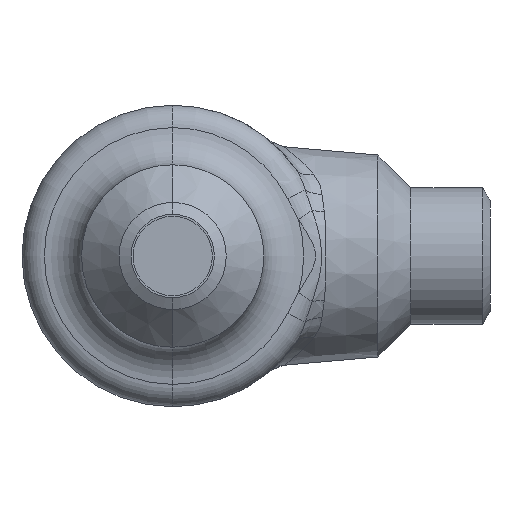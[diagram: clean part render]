
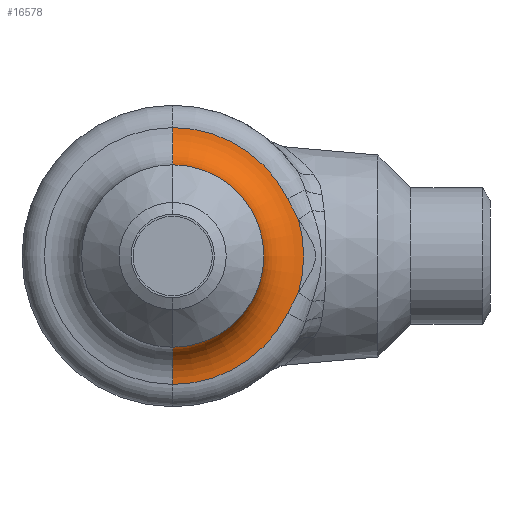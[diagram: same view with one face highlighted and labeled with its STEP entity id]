
A CAD part, front view. The second image highlights one B-rep face of the part: STEP entity #16578.
In plain terms, the highlighted toroidal (fillet/blend) face has major radius 16.5 mm and minor radius 5 mm.
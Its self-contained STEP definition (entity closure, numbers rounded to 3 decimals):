
#3 = ORIENTED_EDGE ( 'NONE', *, *, #1928, .T. ) ;
#16578 = ADVANCED_FACE ( 'NONE', ( #14587 ), #14588, .F. ) ;
#376 = EDGE_CURVE ( 'NONE', #11845, #1309, #16344, .T. ) ;
#17191 = ORIENTED_EDGE ( 'NONE', *, *, #9369, .F. ) ;
#1309 = VERTEX_POINT ( 'NONE', #18938 ) ;
#1530 = EDGE_CURVE ( 'NONE', #19359, #1744, #5591, .T. ) ;
#1744 = VERTEX_POINT ( 'NONE', #5717 ) ;
#1928 = EDGE_CURVE ( 'NONE', #1744, #11845, #5775, .T. ) ;
#2129 = ORIENTED_EDGE ( 'NONE', *, *, #2648, .F. ) ;
#2516 = VERTEX_POINT ( 'NONE', #6315 ) ;
#18938 = CARTESIAN_POINT ( 'NONE',  ( 0., -57., 11.5 ) ) ;
#2648 = EDGE_CURVE ( 'NONE', #13042, #2516, #6411, .T. ) ;
#19136 = VERTEX_POINT ( 'NONE', #7761 ) ;
#19359 = VERTEX_POINT ( 'NONE', #9008 ) ;
#19871 = ORIENTED_EDGE ( 'NONE', *, *, #376, .T. ) ;
#4036 = VERTEX_POINT ( 'NONE', #9057 ) ;
#4949 = EDGE_CURVE ( 'NONE', #19359, #19136, #10784, .T. ) ;
#5591 = B_SPLINE_CURVE_WITH_KNOTS ( 'NONE', 3,
 ( #5592, #5593, #5594, #5595 ),
 .UNSPECIFIED., .F., .F.,
 ( 4, 4 ),
 ( 0.013, 0.016 ),
 .UNSPECIFIED. ) ;
#5592 = CARTESIAN_POINT ( 'NONE',  ( 15.848, -52., 4.594 ) ) ;
#5593 = CARTESIAN_POINT ( 'NONE',  ( 15.397, -52., 5.474 ) ) ;
#5594 = CARTESIAN_POINT ( 'NONE',  ( 14.925, -52.01, 6.344 ) ) ;
#5595 = CARTESIAN_POINT ( 'NONE',  ( 14.484, -52.01, 7.229 ) ) ;
#5717 = CARTESIAN_POINT ( 'NONE',  ( 14.484, -52.01, 7.229 ) ) ;
#5775 = CIRCLE ( 'NONE', #5776, 16.188 ) ;
#5776 = AXIS2_PLACEMENT_3D ( 'NONE', #5777, #5778, #5779 ) ;
#5777 = CARTESIAN_POINT ( 'NONE',  ( 0., -52.01, 0. ) ) ;
#5778 = DIRECTION ( 'NONE',  ( 0., -1., 0. ) ) ;
#5779 = DIRECTION ( 'NONE',  ( 0., 0., -1. ) ) ;
#6270 = CIRCLE ( 'NONE', #6271, 16.188 ) ;
#6271 = AXIS2_PLACEMENT_3D ( 'NONE', #6272, #6273, #6274 ) ;
#6272 = CARTESIAN_POINT ( 'NONE',  ( 0., -52.01, 0. ) ) ;
#6273 = DIRECTION ( 'NONE',  ( 0., -1., 0. ) ) ;
#6274 = DIRECTION ( 'NONE',  ( 0., 0., -1. ) ) ;
#6314 = CARTESIAN_POINT ( 'NONE',  ( 0., -52.01, 16.187 ) ) ;
#6315 = CARTESIAN_POINT ( 'NONE',  ( 0., -57., -11.5 ) ) ;
#6411 = CIRCLE ( 'NONE', #6412, 5. ) ;
#6412 = AXIS2_PLACEMENT_3D ( 'NONE', #6413, #6414, #6415 ) ;
#6413 = CARTESIAN_POINT ( 'NONE',  ( 0., -57., -16.5 ) ) ;
#6414 = DIRECTION ( 'NONE',  ( 1., 0., 0. ) ) ;
#6415 = DIRECTION ( 'NONE',  ( 0., 0., -1. ) ) ;
#7721 = CARTESIAN_POINT ( 'NONE',  ( 0., -52.01, -16.187 ) ) ;
#7761 = CARTESIAN_POINT ( 'NONE',  ( 15.848, -52., -4.594 ) ) ;
#8301 = ORIENTED_EDGE ( 'NONE', *, *, #4949, .F. ) ;
#8617 = EDGE_CURVE ( 'NONE', #4036, #19136, #8963, .T. ) ;
#8963 = B_SPLINE_CURVE_WITH_KNOTS ( 'NONE', 3,
 ( #8964, #8965, #8966, #8967 ),
 .UNSPECIFIED., .F., .F.,
 ( 4, 4 ),
 ( 0., 0.003 ),
 .UNSPECIFIED. ) ;
#8964 = CARTESIAN_POINT ( 'NONE',  ( 14.484, -52.01, -7.229 ) ) ;
#8965 = CARTESIAN_POINT ( 'NONE',  ( 14.925, -52.01, -6.344 ) ) ;
#8966 = CARTESIAN_POINT ( 'NONE',  ( 15.397, -52., -5.474 ) ) ;
#8967 = CARTESIAN_POINT ( 'NONE',  ( 15.848, -52., -4.594 ) ) ;
#9008 = CARTESIAN_POINT ( 'NONE',  ( 15.848, -52., 4.594 ) ) ;
#9057 = CARTESIAN_POINT ( 'NONE',  ( 14.484, -52.01, -7.229 ) ) ;
#9369 = EDGE_CURVE ( 'NONE', #2516, #1309, #15780, .T. ) ;
#10784 = CIRCLE ( 'NONE', #10785, 16.5 ) ;
#10785 = AXIS2_PLACEMENT_3D ( 'NONE', #10786, #10787, #10788 ) ;
#10786 = CARTESIAN_POINT ( 'NONE',  ( 0., -52., 0. ) ) ;
#10787 = DIRECTION ( 'NONE',  ( 0., 1., 0. ) ) ;
#10788 = DIRECTION ( 'NONE',  ( 0., 0., 1. ) ) ;
#10987 = ORIENTED_EDGE ( 'NONE', *, *, #1530, .T. ) ;
#11708 = EDGE_CURVE ( 'NONE', #13042, #4036, #6270, .T. ) ;
#11845 = VERTEX_POINT ( 'NONE', #6314 ) ;
#11920 = ORIENTED_EDGE ( 'NONE', *, *, #11708, .T. ) ;
#12850 = EDGE_LOOP ( 'NONE', ( #2129, #11920, #15006, #8301, #10987, #3, #19871, #17191 ) ) ;
#13042 = VERTEX_POINT ( 'NONE', #7721 ) ;
#14587 = FACE_OUTER_BOUND ( 'NONE', #12850, .T. ) ;
#14588 = TOROIDAL_SURFACE ( 'NONE', #14589, 16.5, 5. ) ;
#14589 = AXIS2_PLACEMENT_3D ( 'NONE', #14590, #14591, #14592 ) ;
#14590 = CARTESIAN_POINT ( 'NONE',  ( 0., -57., 0. ) ) ;
#14591 = DIRECTION ( 'NONE',  ( 0., 1., 0. ) ) ;
#14592 = DIRECTION ( 'NONE',  ( 0., 0., 1. ) ) ;
#15006 = ORIENTED_EDGE ( 'NONE', *, *, #8617, .T. ) ;
#15780 = CIRCLE ( 'NONE', #15781, 11.5 ) ;
#15781 = AXIS2_PLACEMENT_3D ( 'NONE', #15799, #15800, #15801 ) ;
#15799 = CARTESIAN_POINT ( 'NONE',  ( 0., -57., 0. ) ) ;
#15800 = DIRECTION ( 'NONE',  ( 0., -1., 0. ) ) ;
#15801 = DIRECTION ( 'NONE',  ( 0., 0., 1. ) ) ;
#16344 = CIRCLE ( 'NONE', #16345, 5. ) ;
#16345 = AXIS2_PLACEMENT_3D ( 'NONE', #16346, #16347, #16348 ) ;
#16346 = CARTESIAN_POINT ( 'NONE',  ( 0., -57., 16.5 ) ) ;
#16347 = DIRECTION ( 'NONE',  ( -1., 0., 0. ) ) ;
#16348 = DIRECTION ( 'NONE',  ( 0., 0., 1. ) ) ;
